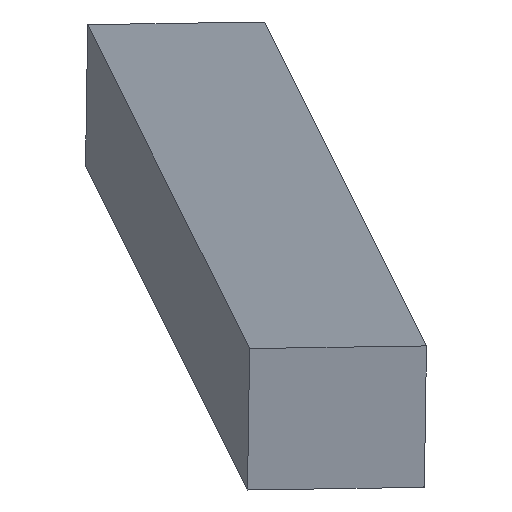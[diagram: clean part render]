
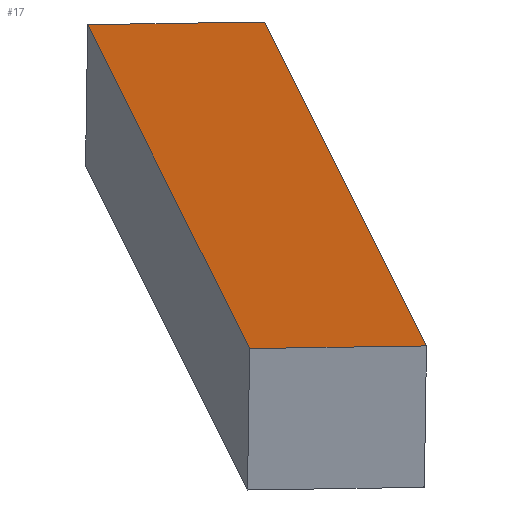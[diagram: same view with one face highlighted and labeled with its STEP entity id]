
A CAD part, left-side view. The second image highlights one B-rep face of the part: STEP entity #17.
In plain terms, the highlighted planar face has unit normal (-0.241, -0.015, 0.971).
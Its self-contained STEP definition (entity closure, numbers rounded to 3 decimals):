
#17 = ADVANCED_FACE('',(#18),#32,.F.);
#18 = FACE_BOUND('',#19,.F.);
#19 = EDGE_LOOP('',(#20,#55,#83,#111));
#20 = ORIENTED_EDGE('',*,*,#21,.F.);
#21 = EDGE_CURVE('',#22,#24,#26,.T.);
#22 = VERTEX_POINT('',#23);
#23 = CARTESIAN_POINT('',(204.157,-176.052,358.897
    ));
#24 = VERTEX_POINT('',#25);
#25 = CARTESIAN_POINT('',(364.157,-156.052,398.897
    ));
#26 = SURFACE_CURVE('',#27,(#31,#43),.PCURVE_S1.);
#27 = LINE('',#28,#29);
#28 = CARTESIAN_POINT('',(204.157,-176.052,358.897
    ));
#29 = VECTOR('',#30,1.);
#30 = DIRECTION('',(0.963,0.12,0.241));
#31 = PCURVE('',#32,#37);
#32 = PLANE('',#33);
#33 = AXIS2_PLACEMENT_3D('',#34,#35,#36);
#34 = CARTESIAN_POINT('',(204.157,-176.052,358.897
    ));
#35 = DIRECTION('',(0.241,0.015,-0.97));
#36 = DIRECTION('',(0.963,0.12,0.241));
#37 = DEFINITIONAL_REPRESENTATION('',(#38),#42);
#38 = LINE('',#39,#40);
#39 = CARTESIAN_POINT('',(0.,0.));
#40 = VECTOR('',#41,1.);
#41 = DIRECTION('',(1.,0.));
#42 = ( GEOMETRIC_REPRESENTATION_CONTEXT(2) 
PARAMETRIC_REPRESENTATION_CONTEXT() REPRESENTATION_CONTEXT('2D SPACE',''
  ) );
#43 = PCURVE('',#44,#49);
#44 = PLANE('',#45);
#45 = AXIS2_PLACEMENT_3D('',#46,#47,#48);
#46 = CARTESIAN_POINT('',(204.157,-176.052,358.897
    ));
#47 = DIRECTION('',(-0.12,0.993,-0.015)
  );
#48 = DIRECTION('',(0.963,0.12,0.241));
#49 = DEFINITIONAL_REPRESENTATION('',(#50),#54);
#50 = LINE('',#51,#52);
#51 = CARTESIAN_POINT('',(0.,0.));
#52 = VECTOR('',#53,1.);
#53 = DIRECTION('',(1.,0.));
#54 = ( GEOMETRIC_REPRESENTATION_CONTEXT(2) 
PARAMETRIC_REPRESENTATION_CONTEXT() REPRESENTATION_CONTEXT('2D SPACE',''
  ) );
#55 = ORIENTED_EDGE('',*,*,#56,.T.);
#56 = EDGE_CURVE('',#22,#57,#59,.T.);
#57 = VERTEX_POINT('',#58);
#58 = CARTESIAN_POINT('',(201.509,-154.214,
    358.572));
#59 = SURFACE_CURVE('',#60,(#64,#71),.PCURVE_S1.);
#60 = LINE('',#61,#62);
#61 = CARTESIAN_POINT('',(204.157,-176.052,358.897
    ));
#62 = VECTOR('',#63,1.);
#63 = DIRECTION('',(-0.12,0.993,-0.015)
  );
#64 = PCURVE('',#32,#65);
#65 = DEFINITIONAL_REPRESENTATION('',(#66),#70);
#66 = LINE('',#67,#68);
#67 = CARTESIAN_POINT('',(0.,0.));
#68 = VECTOR('',#69,1.);
#69 = DIRECTION('',(0.,-1.));
#70 = ( GEOMETRIC_REPRESENTATION_CONTEXT(2) 
PARAMETRIC_REPRESENTATION_CONTEXT() REPRESENTATION_CONTEXT('2D SPACE',''
  ) );
#71 = PCURVE('',#72,#77);
#72 = PLANE('',#73);
#73 = AXIS2_PLACEMENT_3D('',#74,#75,#76);
#74 = CARTESIAN_POINT('',(204.157,-176.052,358.897
    ));
#75 = DIRECTION('',(0.963,0.12,0.241));
#76 = DIRECTION('',(0.241,0.015,-0.97));
#77 = DEFINITIONAL_REPRESENTATION('',(#78),#82);
#78 = LINE('',#79,#80);
#79 = CARTESIAN_POINT('',(0.,0.));
#80 = VECTOR('',#81,1.);
#81 = DIRECTION('',(0.,1.));
#82 = ( GEOMETRIC_REPRESENTATION_CONTEXT(2) 
PARAMETRIC_REPRESENTATION_CONTEXT() REPRESENTATION_CONTEXT('2D SPACE',''
  ) );
#83 = ORIENTED_EDGE('',*,*,#84,.T.);
#84 = EDGE_CURVE('',#57,#85,#87,.T.);
#85 = VERTEX_POINT('',#86);
#86 = CARTESIAN_POINT('',(361.509,-134.214,
    398.572));
#87 = SURFACE_CURVE('',#88,(#92,#99),.PCURVE_S1.);
#88 = LINE('',#89,#90);
#89 = CARTESIAN_POINT('',(201.509,-154.214,
    358.572));
#90 = VECTOR('',#91,1.);
#91 = DIRECTION('',(0.963,0.12,0.241));
#92 = PCURVE('',#32,#93);
#93 = DEFINITIONAL_REPRESENTATION('',(#94),#98);
#94 = LINE('',#95,#96);
#95 = CARTESIAN_POINT('',(0.,-22.));
#96 = VECTOR('',#97,1.);
#97 = DIRECTION('',(1.,0.));
#98 = ( GEOMETRIC_REPRESENTATION_CONTEXT(2) 
PARAMETRIC_REPRESENTATION_CONTEXT() REPRESENTATION_CONTEXT('2D SPACE',''
  ) );
#99 = PCURVE('',#100,#105);
#100 = PLANE('',#101);
#101 = AXIS2_PLACEMENT_3D('',#102,#103,#104);
#102 = CARTESIAN_POINT('',(201.509,-154.214,
    358.572));
#103 = DIRECTION('',(-0.12,0.993,-0.015)
  );
#104 = DIRECTION('',(0.963,0.12,0.241));
#105 = DEFINITIONAL_REPRESENTATION('',(#106),#110);
#106 = LINE('',#107,#108);
#107 = CARTESIAN_POINT('',(0.,0.));
#108 = VECTOR('',#109,1.);
#109 = DIRECTION('',(1.,0.));
#110 = ( GEOMETRIC_REPRESENTATION_CONTEXT(2) 
PARAMETRIC_REPRESENTATION_CONTEXT() REPRESENTATION_CONTEXT('2D SPACE',''
  ) );
#111 = ORIENTED_EDGE('',*,*,#112,.F.);
#112 = EDGE_CURVE('',#24,#85,#113,.T.);
#113 = SURFACE_CURVE('',#114,(#118,#125),.PCURVE_S1.);
#114 = LINE('',#115,#116);
#115 = CARTESIAN_POINT('',(364.157,-156.052,
    398.897));
#116 = VECTOR('',#117,1.);
#117 = DIRECTION('',(-0.12,0.993,-0.015)
  );
#118 = PCURVE('',#32,#119);
#119 = DEFINITIONAL_REPRESENTATION('',(#120),#124);
#120 = LINE('',#121,#122);
#121 = CARTESIAN_POINT('',(166.132,0.));
#122 = VECTOR('',#123,1.);
#123 = DIRECTION('',(0.,-1.));
#124 = ( GEOMETRIC_REPRESENTATION_CONTEXT(2) 
PARAMETRIC_REPRESENTATION_CONTEXT() REPRESENTATION_CONTEXT('2D SPACE',''
  ) );
#125 = PCURVE('',#126,#131);
#126 = PLANE('',#127);
#127 = AXIS2_PLACEMENT_3D('',#128,#129,#130);
#128 = CARTESIAN_POINT('',(364.157,-156.052,
    398.897));
#129 = DIRECTION('',(0.963,0.12,0.241));
#130 = DIRECTION('',(0.241,0.015,-0.97)
  );
#131 = DEFINITIONAL_REPRESENTATION('',(#132),#136);
#132 = LINE('',#133,#134);
#133 = CARTESIAN_POINT('',(0.,0.));
#134 = VECTOR('',#135,1.);
#135 = DIRECTION('',(0.,1.));
#136 = ( GEOMETRIC_REPRESENTATION_CONTEXT(2) 
PARAMETRIC_REPRESENTATION_CONTEXT() REPRESENTATION_CONTEXT('2D SPACE',''
  ) );
